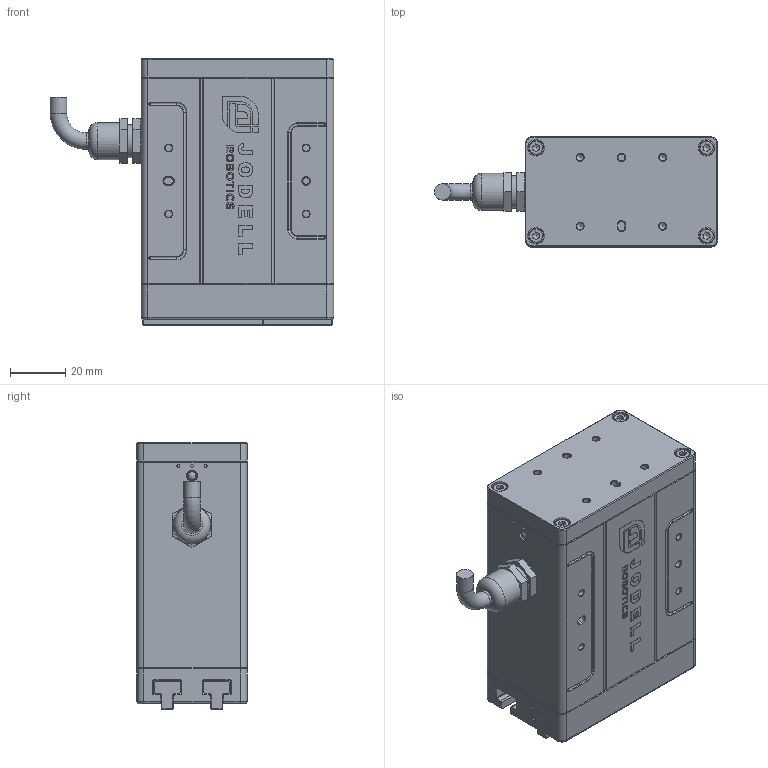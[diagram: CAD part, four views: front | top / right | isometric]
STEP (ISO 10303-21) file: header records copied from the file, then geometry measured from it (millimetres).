
FILE_DESCRIPTION (( 'STEP AP203' ), '1' );
FILE_NAME ('EPG05000000萇雄標蛈.STEP', '2022-09-14T06:26:07', ( 'User' ), ( 'China' ), 'SwSTEP 2.0', 'SolidWorks 2016', '' );
FILE_SCHEMA (( 'CONFIG_CONTROL_DESIGN' ));
Length unit declared in the file: millimetre
Products named in the file (2): EPG05000000萇雄標蛈
Bounding box: 103 x 40 x 97 mm (x, y, z)
Volume: 264815.7 mm3; surface area: 49693.9 mm2
Topology: 12 solids, 12 shells, 1118 faces, 2668 edges, 1650 vertices
Faces by surface type: plane 577, bspline 170, cylinder 167, cone 153, torus 42, sphere 9
Full cylindrical faces by diameter (mm): 1 x3, 2.05 x6, 2.5 x28, 2.8 x2, 3 x4, 3.2 x4, 4 x1, 5.5 x4, 5.6 x1, 6 x6, 9 x1, 10.2 x1, 12 x3, 13.5 x1
Entity records: 31981 total; most frequent: CARTESIAN_POINT 7936, ORIENTED_EDGE 4904, DIRECTION 4498, EDGE_CURVE 2452, VERTEX_POINT 1586, VECTOR 1558, LINE 1558, AXIS2_PLACEMENT_3D 1470
